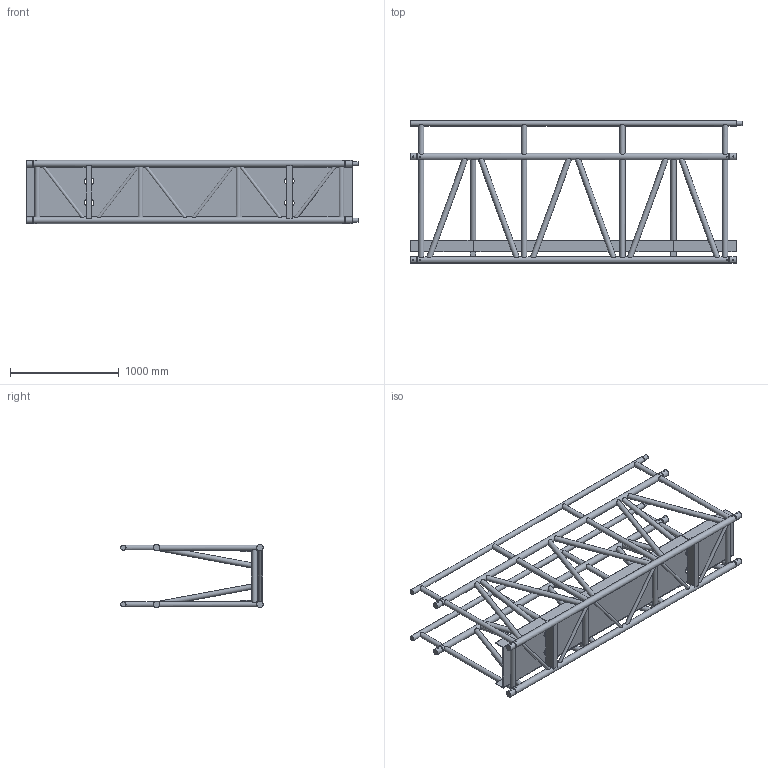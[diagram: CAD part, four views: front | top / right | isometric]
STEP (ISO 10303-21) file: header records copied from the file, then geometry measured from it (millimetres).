
FILE_DESCRIPTION(/* description */ (''),/* implementation_level */ '2;1');
FILE_NAME(/* name */ 'M:\Symbolen_NIEUW\STP\100-er truss\B100CW\B100CW-L300_111110330.stp',/* time_stamp */ '2017-12-06T14:11:18+01:00',/* author */ ('Kees'),/* organization */ (''),/* preprocessor_version */ 'ST-DEVELOPER v16.13',/* originating_system */ 'Autodesk Inventor 2018',/* authorisation */ '');
FILE_SCHEMA (('AUTOMOTIVE_DESIGN { 1 0 10303 214 3 1 1 }'));
Length unit declared in the file: millimetre
Products named in the file (1): 260015950
Bounding box: 3050 x 1309.15 x 580 mm (x, y, z)
Volume: 109592091.6 mm3; surface area: 11579225.2 mm2
Topology: 1 solids, 1 shells, 402 faces, 1200 edges, 768 vertices
Faces by surface type: plane 256, cylinder 106, cone 40
Full cylindrical faces by diameter (mm): 10 x8, 30 x6, 40 x2, 48.3 x38, 58.8 x8, 60 x4
Entity records: 16719 total; most frequent: CARTESIAN_POINT 6467, DIRECTION 1966, ORIENTED_EDGE 1960, EDGE_CURVE 980, AXIS2_PLACEMENT_3D 759, VERTEX_POINT 668, EDGE_LOOP 610, LINE 448
